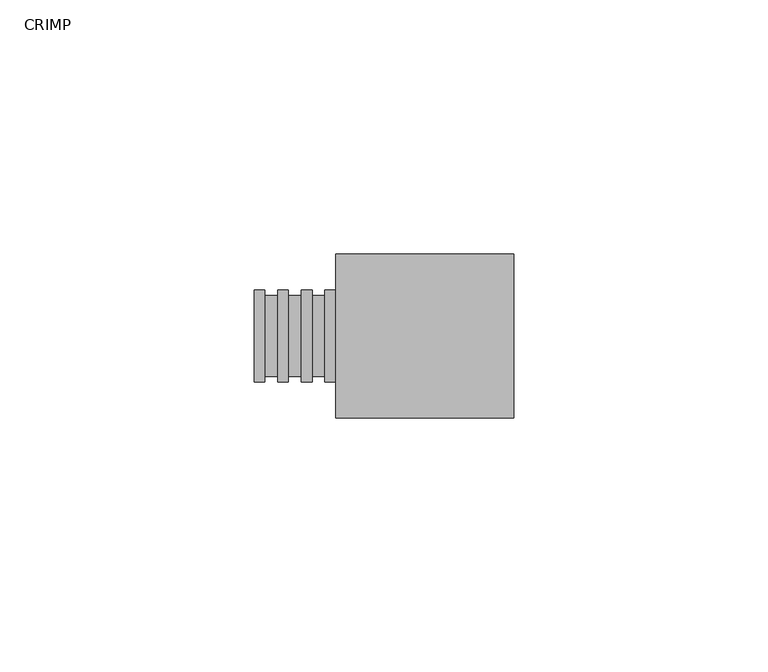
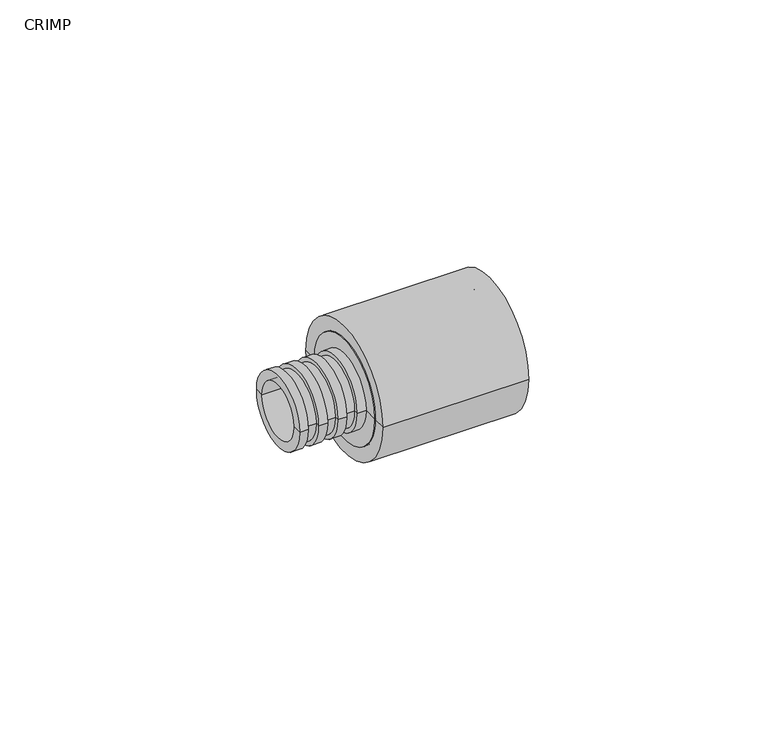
"""IFC4 building model written with IfcOpenShell, lengths in millimetres: valve geometry, Aquatherm - PEX Adapter Crimp : CRIMP."""

import ifcopenshell
import ifcopenshell.guid

model = None  # the IFC model being written
_history = None  # IfcOwnerHistory: only IFC2X3 demands one
_inside = {}  # id of a spatial element -> (the spatial element, [elements in it])
_under = {}  # id of a project, library or spatial element -> (it, [spatial elements below it])
_declared = {}  # id of a project -> (the project, [libraries it declares])
_typed = {}  # id of a type object -> (the type object, [elements of that type])
_made_of = {}  # id of a material, layer set ... -> (it, [elements and type objects made of it])


def new_model(schema):
    """Start an empty IFC model of exactly this schema.

    Asked for "IFC4X3", IfcOpenShell would pick the latest addendum, in which some entities
    have other attributes; the version numbers below select the first issue.
    IFC2X3 requires an IfcOwnerHistory on every rooted entity: one is made here for all.
    """
    global model, _history
    if schema == "IFC4X3":
        model = ifcopenshell.file(schema_version=(4, 3, 0, 0))
    else:
        model = ifcopenshell.file(schema=schema)
    _inside.clear()
    _under.clear()
    _declared.clear()
    _typed.clear()
    _made_of.clear()
    _history = None
    if model.schema == "IFC2X3":
        org = make("IfcOrganization", Name="unknown")
        user = make(
            "IfcPersonAndOrganization",
            ThePerson=make("IfcPerson", FamilyName="unknown"),
            TheOrganization=org,
        )
        app = make(
            "IfcApplication",
            ApplicationDeveloper=org,
            Version="unknown",
            ApplicationFullName="unknown",
            ApplicationIdentifier="unknown",
        )
        _history = make(
            "IfcOwnerHistory",
            OwningUser=user,
            OwningApplication=app,
            ChangeAction="ADDED",
            CreationDate=0,
        )
    return model


def make(cls, **values):
    """One entity of the class cls with the attributes given. An attribute that is None is left unset."""
    return model.create_entity(
        cls, **{name: value for name, value in values.items() if value is not None}
    )


def rooted(cls, **values):
    """An entity with a GlobalId (a new one), such as an element, a storey or a relation."""
    return make(cls, GlobalId=ifcopenshell.guid.new(), OwnerHistory=_history, **values)


def si_unit(unit_type, name, prefix=None):
    """IfcSIUnit, for example si_unit("LENGTHUNIT", "METRE", prefix="MILLI")."""
    return make("IfcSIUnit", UnitType=unit_type, Prefix=prefix, Name=name)


def assignment(units):
    """IfcUnitAssignment: the units of a project."""
    return None if units is None else make("IfcUnitAssignment", Units=units)


def point(xyz):
    """IfcCartesianPoint."""
    return None if xyz is None else make("IfcCartesianPoint", Coordinates=xyz)


def direction(xyz):
    """IfcDirection."""
    return None if xyz is None else make("IfcDirection", DirectionRatios=xyz)


def frame(location, z_axis=None, x_axis=None):
    """IfcAxis2Placement3D, a coordinate frame: its origin and axes. An axis left out is left unset."""
    return make(
        "IfcAxis2Placement3D",
        Location=point(location),
        Axis=direction(z_axis),
        RefDirection=direction(x_axis),
    )


def origin():
    """The frame at (0, 0, 0) with its axes left unset."""
    return frame((0.0, 0.0, 0.0))


def place(relative_to, where):
    """IfcLocalPlacement: puts the frame where relative to a parent placement (None: the world)."""
    return make(
        "IfcLocalPlacement", PlacementRelTo=relative_to, RelativePlacement=where
    )


def context(
    kind, dimensions, precision=None, world=None, true_north=None, identifier=None
):
    """IfcGeometricRepresentationContext, for example the 3D "Model" context."""
    return make(
        "IfcGeometricRepresentationContext",
        ContextIdentifier=identifier,
        ContextType=kind,
        CoordinateSpaceDimension=dimensions,
        Precision=precision,
        WorldCoordinateSystem=world,
        TrueNorth=true_north,
    )


def project(units=None, contexts=None):
    """IfcProject with its units and contexts."""
    return rooted(
        "IfcProject",
        Name="project",
        RepresentationContexts=contexts,
        UnitsInContext=assignment(units),
    )


def spatial(cls, under=None, at=None, **own):
    """A site, building, storey or space (cls), placed at a placement, below another one or the project."""
    s = rooted(cls, ObjectPlacement=at, **own)
    if under is not None:
        _under.setdefault(under.id(), (under, []))[1].append(s)
    return s


def polyline(points):
    """IfcPolyline through the points."""
    return make("IfcPolyline", Points=[point(p) for p in points])


def circle_curve(where, radius):
    """IfcCircle in the frame where."""
    return make("IfcCircle", Position=where, Radius=radius)


def shape(context_of_items, identifier, shape_type, items):
    """IfcShapeRepresentation: the items that make up one representation, for example the "Body"."""
    return make(
        "IfcShapeRepresentation",
        ContextOfItems=context_of_items,
        RepresentationIdentifier=identifier,
        RepresentationType=shape_type,
        Items=items,
    )


def source(mapping_origin, context_of_items, identifier, shape_type, items):
    """IfcRepresentationMap: a shape defined once, which mapped items show again and again."""
    return make(
        "IfcRepresentationMap",
        MappingOrigin=mapping_origin,
        MappedRepresentation=shape(context_of_items, identifier, shape_type, items),
    )


def transform(
    local_origin,
    x_axis=None,
    y_axis=None,
    z_axis=None,
    scale=None,
    scale2=None,
    scale3=None,
    uniform=True,
):
    """IfcCartesianTransformationOperator3D, or its non-uniform kind. x_axis, y_axis, z_axis: its Axis1, 2, 3."""
    if uniform:
        return make(
            "IfcCartesianTransformationOperator3D",
            Axis1=direction(x_axis),
            Axis2=direction(y_axis),
            LocalOrigin=point(local_origin),
            Scale=scale,
            Axis3=direction(z_axis),
        )
    return make(
        "IfcCartesianTransformationOperator3DnonUniform",
        Axis1=direction(x_axis),
        Axis2=direction(y_axis),
        LocalOrigin=point(local_origin),
        Scale=scale,
        Axis3=direction(z_axis),
        Scale2=scale2,
        Scale3=scale3,
    )


def mapped(mapping_source, mapping_target):
    """IfcMappedItem: shows the shape of a source again, moved by a transform."""
    return make(
        "IfcMappedItem", MappingSource=mapping_source, MappingTarget=mapping_target
    )


def made_of(thing, what):
    """Note that an element or type object is made of a material, layer set ...; save() writes the relation."""
    if what is not None:
        _made_of.setdefault(what.id(), (what, []))[1].append(thing)
    return thing


def element(
    cls,
    number,
    at=None,
    inside=None,
    cuts=None,
    type_object=None,
    material=None,
    context=None,
    identifier="Body",
    shape_type=None,
    held_by="IfcProductDefinitionShape",
    body=None,
    shapes=None,
    **own,
):
    """One element of the class cls, such as IfcWall. Its Tag is "e" and its number.

    at: its placement. inside: the storey or other place that contains it. cuts: it is an
    opening in that element (IfcRelVoidsElement). A single representation is given by context,
    identifier, shape_type and body (its items); several are given by shapes. held_by: the class
    of the entity that holds the representations. save() writes the other relations.
    """
    e = rooted(cls, Tag="e%d" % number, ObjectPlacement=at, **own)
    if body is not None:
        shapes = [shape(context, identifier, shape_type, body)]
    if shapes is not None:
        e.Representation = make(held_by, Representations=shapes)
    if inside is not None:
        _inside.setdefault(inside.id(), (inside, []))[1].append(e)
    if cuts is not None:
        rooted(
            "IfcRelVoidsElement", RelatingBuildingElement=cuts, RelatedOpeningElement=e
        )
    if type_object is not None:
        _typed.setdefault(type_object.id(), (type_object, []))[1].append(e)
    return made_of(e, material)


def aggregate(whole, parts):
    """IfcRelAggregates: a whole, such as a stair, and the parts it consists of."""
    return rooted("IfcRelAggregates", RelatingObject=whole, RelatedObjects=parts)


def save(model, path):
    """Write the relations noted so far, then the file.

    IfcRelAggregates (storeys below a building ...), IfcRelContainedInSpatialStructure (elements
    in a storey), IfcRelDefinesByType, IfcRelAssociatesMaterial and IfcRelDeclares: one each for
    every whole, place, type object, material and project.
    """
    for whole, parts in _under.values():
        aggregate(whole, parts)
    for where, things in _inside.values():
        rooted(
            "IfcRelContainedInSpatialStructure",
            RelatedElements=things,
            RelatingStructure=where,
        )
    for kind, things in _typed.values():
        rooted("IfcRelDefinesByType", RelatedObjects=things, RelatingType=kind)
    for what, things in _made_of.values():
        rooted("IfcRelAssociatesMaterial", RelatedObjects=things, RelatingMaterial=what)
    for by, libraries in _declared.values():
        rooted("IfcRelDeclares", RelatingContext=by, RelatedDefinitions=libraries)
    model.write(path)


def plane_surface(at):
    """IfcPlane: the flat surface through the origin of the frame at, square to its z axis."""
    return make("IfcPlane", Position=at)


def cylinder_surface(at, radius):
    """IfcCylindricalSurface: all points at the distance radius from the z axis of the frame at."""
    return make("IfcCylindricalSurface", Position=at, Radius=radius)


def revolved_surface(curve, axis_point, axis_direction):
    """IfcSurfaceOfRevolution: the curve turned about the line through axis_point along axis_direction."""
    return make(
        "IfcSurfaceOfRevolution",
        SweptCurve=make("IfcArbitraryOpenProfileDef", ProfileType="CURVE", Curve=curve),
        AxisPosition=make("IfcAxis1Placement", Location=point(axis_point), Axis=direction(axis_direction)),
    )


def advanced_brep(points, edges, surfaces, faces):
    """IfcAdvancedBrep: a solid bounded by faces that lie on surfaces and meet in shared edges.

    An edge is (start, end): straight between two places in points (the first is 0);
    or (start, end, curve); or (start, end, curve, False) where it runs against its curve.
    A face is (place in surfaces, loops), or (place, loops, False) where it looks against
    its surface's normal. A loop lists edges by number (the first is 1), with a minus sign
    where the edge is run from its end to its start. The first loop is the outer one.
    """
    corners = [point(p) for p in points]
    vertices = [make("IfcVertexPoint", VertexGeometry=c) for c in corners]
    made = []
    for start, end, *more in edges:
        made.append(
            make(
                "IfcEdgeCurve",
                EdgeStart=vertices[start],
                EdgeEnd=vertices[end],
                EdgeGeometry=more[0] if more else make("IfcPolyline", Points=[corners[start], corners[end]]),
                SameSense=more[1] if len(more) > 1 else True,
            )
        )
    hull = []
    for where, loops, *sense in faces:
        bounds = []
        for j, loop in enumerate(loops):
            ring = [make("IfcOrientedEdge", EdgeElement=made[abs(k) - 1], Orientation=k > 0) for k in loop]
            bounds.append(
                make(
                    "IfcFaceOuterBound" if j == 0 else "IfcFaceBound",
                    Bound=make("IfcEdgeLoop", EdgeList=ring),
                    Orientation=True,
                )
            )
        hull.append(make("IfcAdvancedFace", Bounds=bounds, FaceSurface=surfaces[where], SameSense=sense[0] if sense else True))
    return make("IfcAdvancedBrep", Outer=make("IfcClosedShell", CfsFaces=hull))


def crimp_49fb9548(model_context):
    return source(origin(), model_context, "Body", "AdvancedBrep", [
        advanced_brep(
        [(3.175, -6.731, 0.0), (3.175, 6.731, 0.0), (-16.002, 6.731, 0.0), (-16.002, -6.731, 0.0), (3.175, -12.7, 0.0), (3.175, 12.7, 0.0), (-16.002, 9.017, 0.0), (-16.002, -9.017, 0.0), (-2.0955, -9.017, 0.0), (-2.0955, 9.017, 0.0), (0.0, 9.017, 0.0), (0.0, -9.017, 0.0), (-2.0955, -8.001, 0.0), (-2.0955, 8.001, 0.0), (-4.6355, -8.001, 0.0), (-4.6355, 8.001, 0.0), (-4.6355, -9.017, 0.0), (-4.6355, 9.017, 0.0), (-6.731, -9.017, 0.0), (-6.731, 9.017, 0.0), (-6.731, -8.001, 0.0), (-6.731, 8.001, 0.0), (-9.271, -8.001, 0.0), (-9.271, 8.001, 0.0), (-9.271, -9.017, 0.0), (-9.271, 9.017, 0.0), (-11.3665, -9.017, 0.0), (-11.3665, 9.017, 0.0), (-11.3665, -8.001, 0.0), (-11.3665, 8.001, 0.0), (-13.9065, -8.001, 0.0), (-13.9065, 8.001, 0.0), (-13.9065, -9.017, 0.0), (-13.9065, 9.017, 0.0), (0.0, -12.7, 0.0), (0.0, 12.7, 0.0)],
        [
            (0, 1, circle_curve(frame((3.175, 0.0, 0.0), z_axis=(1.0, 0.0, 0.0), x_axis=(0.0, 1.0, 0.0)), 6.731)),
            (1, 2),
            (2, 3, circle_curve(frame((-16.002, 0.0, 0.0), z_axis=(-1.0, 0.0, 0.0), x_axis=(0.0, 1.0, 0.0)), 6.731)),
            (3, 0),
            (1, 0, circle_curve(frame((3.175, 0.0, 0.0), z_axis=(1.0, 0.0, 0.0), x_axis=(0.0, 1.0, 0.0)), 6.731)),
            (3, 2, circle_curve(frame((-16.002, 0.0, 0.0), z_axis=(-1.0, 0.0, 0.0), x_axis=(0.0, 1.0, 0.0)), 6.731)),
            (4, 5, circle_curve(frame((3.175, 0.0, 0.0), z_axis=(1.0, 0.0, 0.0), x_axis=(0.0, 1.0, 0.0)), 12.7)),
            (5, 1),
            (0, 4),
            (5, 4, circle_curve(frame((3.175, 0.0, 0.0), z_axis=(1.0, 0.0, 0.0), x_axis=(0.0, 1.0, 0.0)), 12.7)),
            (2, 6),
            (6, 7, circle_curve(frame((-16.002, 0.0, 0.0), z_axis=(-1.0, 0.0, 0.0), x_axis=(0.0, 1.0, 0.0)), 9.017)),
            (7, 3),
            (7, 6, circle_curve(frame((-16.002, 0.0, 0.0), z_axis=(-1.0, 0.0, 0.0), x_axis=(0.0, 1.0, 0.0)), 9.017)),
            (8, 9, circle_curve(frame((-2.0955, 0.0, 0.0), z_axis=(1.0, 0.0, 0.0), x_axis=(0.0, 1.0, 0.0)), 9.017)),
            (9, 10),
            (10, 11, circle_curve(frame((0.0, 0.0, 0.0), z_axis=(-1.0, 0.0, 0.0), x_axis=(0.0, 1.0, 0.0)), 9.017)),
            (11, 8),
            (9, 8, circle_curve(frame((-2.0955, 0.0, 0.0), z_axis=(1.0, 0.0, 0.0), x_axis=(0.0, 1.0, 0.0)), 9.017)),
            (11, 10, circle_curve(frame((0.0, 0.0, 0.0), z_axis=(-1.0, 0.0, 0.0), x_axis=(0.0, 1.0, 0.0)), 9.017)),
            (12, 13, circle_curve(frame((-2.0955, 0.0, 0.0), z_axis=(1.0, 0.0, 0.0), x_axis=(0.0, 1.0, 0.0)), 8.001)),
            (13, 9),
            (8, 12),
            (13, 12, circle_curve(frame((-2.0955, 0.0, 0.0), z_axis=(1.0, 0.0, 0.0), x_axis=(0.0, 1.0, 0.0)), 8.001)),
            (14, 15, circle_curve(frame((-4.6355, 0.0, 0.0), z_axis=(1.0, 0.0, 0.0), x_axis=(0.0, 1.0, 0.0)), 8.001)),
            (15, 13),
            (12, 14),
            (15, 14, circle_curve(frame((-4.6355, 0.0, 0.0), z_axis=(1.0, 0.0, 0.0), x_axis=(0.0, 1.0, 0.0)), 8.001)),
            (16, 17, circle_curve(frame((-4.6355, 0.0, 0.0), z_axis=(1.0, 0.0, 0.0), x_axis=(0.0, 1.0, 0.0)), 9.017)),
            (17, 15),
            (14, 16),
            (17, 16, circle_curve(frame((-4.6355, 0.0, 0.0), z_axis=(1.0, 0.0, 0.0), x_axis=(0.0, 1.0, 0.0)), 9.017)),
            (18, 19, circle_curve(frame((-6.731, 0.0, 0.0), z_axis=(1.0, 0.0, 0.0), x_axis=(0.0, 1.0, 0.0)), 9.017)),
            (19, 17),
            (16, 18),
            (19, 18, circle_curve(frame((-6.731, 0.0, 0.0), z_axis=(1.0, 0.0, 0.0), x_axis=(0.0, 1.0, 0.0)), 9.017)),
            (20, 21, circle_curve(frame((-6.731, 0.0, 0.0), z_axis=(1.0, 0.0, 0.0), x_axis=(0.0, 1.0, 0.0)), 8.001)),
            (21, 19),
            (18, 20),
            (21, 20, circle_curve(frame((-6.731, 0.0, 0.0), z_axis=(1.0, 0.0, 0.0), x_axis=(0.0, 1.0, 0.0)), 8.001)),
            (22, 23, circle_curve(frame((-9.271, 0.0, 0.0), z_axis=(1.0, 0.0, 0.0), x_axis=(0.0, 1.0, 0.0)), 8.001)),
            (23, 21),
            (20, 22),
            (23, 22, circle_curve(frame((-9.271, 0.0, 0.0), z_axis=(1.0, 0.0, 0.0), x_axis=(0.0, 1.0, 0.0)), 8.001)),
            (24, 25, circle_curve(frame((-9.271, 0.0, 0.0), z_axis=(1.0, 0.0, 0.0), x_axis=(0.0, 1.0, 0.0)), 9.017)),
            (25, 23),
            (22, 24),
            (25, 24, circle_curve(frame((-9.271, 0.0, 0.0), z_axis=(1.0, 0.0, 0.0), x_axis=(0.0, 1.0, 0.0)), 9.017)),
            (26, 27, circle_curve(frame((-11.3665, 0.0, 0.0), z_axis=(1.0, 0.0, 0.0), x_axis=(0.0, 1.0, 0.0)), 9.017)),
            (27, 25),
            (24, 26),
            (27, 26, circle_curve(frame((-11.3665, 0.0, 0.0), z_axis=(1.0, 0.0, 0.0), x_axis=(0.0, 1.0, 0.0)), 9.017)),
            (28, 29, circle_curve(frame((-11.3665, 0.0, 0.0), z_axis=(1.0, 0.0, 0.0), x_axis=(0.0, 1.0, 0.0)), 8.001)),
            (29, 27),
            (26, 28),
            (29, 28, circle_curve(frame((-11.3665, 0.0, 0.0), z_axis=(1.0, 0.0, 0.0), x_axis=(0.0, 1.0, 0.0)), 8.001)),
            (30, 31, circle_curve(frame((-13.9065, 0.0, 0.0), z_axis=(1.0, 0.0, 0.0), x_axis=(0.0, 1.0, 0.0)), 8.001)),
            (31, 29),
            (28, 30),
            (31, 30, circle_curve(frame((-13.9065, 0.0, 0.0), z_axis=(1.0, 0.0, 0.0), x_axis=(0.0, 1.0, 0.0)), 8.001)),
            (32, 33, circle_curve(frame((-13.9065, 0.0, 0.0), z_axis=(1.0, 0.0, 0.0), x_axis=(0.0, 1.0, 0.0)), 9.017)),
            (33, 31),
            (30, 32),
            (33, 32, circle_curve(frame((-13.9065, 0.0, 0.0), z_axis=(1.0, 0.0, 0.0), x_axis=(0.0, 1.0, 0.0)), 9.017)),
            (6, 33),
            (32, 7),
            (34, 35, circle_curve(frame((0.0, 0.0, 0.0), z_axis=(1.0, 0.0, 0.0), x_axis=(0.0, 1.0, 0.0)), 12.7)),
            (35, 5),
            (4, 34),
            (35, 34, circle_curve(frame((0.0, 0.0, 0.0), z_axis=(1.0, 0.0, 0.0), x_axis=(0.0, 1.0, 0.0)), 12.7)),
            (10, 35),
            (34, 11),
        ],
        [
            revolved_surface(polyline([(-16.002, 6.731, 0.0), (3.1750000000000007, 6.731, 0.0)]), (-27.559, 0.0, 0.0), (-1.0, 0.0, 0.0)),
            plane_surface(frame((3.175, 0.0, 0.0), z_axis=(1.0, 0.0, 0.0), x_axis=(0.0, 1.0, 0.0))),
            plane_surface(frame((-16.002, 0.0, 0.0), z_axis=(-1.0, 0.0, 0.0), x_axis=(0.0, 1.0, 0.0))),
            cylinder_surface(frame((-27.559, 0.0, 0.0), z_axis=(-1.0, 0.0, 0.0), x_axis=(0.0, 1.0, 0.0)), 9.017),
            plane_surface(frame((-2.0955, 0.0, 0.0), z_axis=(-1.0, 0.0, 0.0), x_axis=(0.0, 1.0, 0.0))),
            cylinder_surface(frame((-27.559, 0.0, 0.0), z_axis=(-1.0, 0.0, 0.0), x_axis=(0.0, 1.0, 0.0)), 8.001),
            plane_surface(frame((-4.6355, 0.0, 0.0), z_axis=(1.0, 0.0, 0.0), x_axis=(0.0, 1.0, 0.0))),
            plane_surface(frame((-6.731, 0.0, 0.0), z_axis=(-1.0, 0.0, 0.0), x_axis=(0.0, 1.0, 0.0))),
            plane_surface(frame((-9.271, 0.0, 0.0), z_axis=(1.0, 0.0, 0.0), x_axis=(0.0, 1.0, 0.0))),
            plane_surface(frame((-11.3665, 0.0, 0.0), z_axis=(-1.0, 0.0, 0.0), x_axis=(0.0, 1.0, 0.0))),
            plane_surface(frame((-13.9065, 0.0, 0.0), z_axis=(1.0, 0.0, 0.0), x_axis=(0.0, 1.0, 0.0))),
            cylinder_surface(frame((-27.559, 0.0, 0.0), z_axis=(-1.0, 0.0, 0.0), x_axis=(0.0, 1.0, 0.0)), 12.7),
            plane_surface(frame((0.0, 0.0, 0.0), z_axis=(-1.0, 0.0, 0.0), x_axis=(0.0, 1.0, 0.0))),
        ],
        [
            (0, [[1, 2, 3, 4]]),
            (0, [[5, -4, 6, -2]]),
            (1, [[7, 8, -1, 9]]),
            (1, [[10, -9, -5, -8]]),
            (2, [[-3, 11, 12, 13]]),
            (2, [[-6, -13, 14, -11]]),
            (3, [[15, 16, 17, 18]]),
            (3, [[19, -18, 20, -16]]),
            (4, [[21, 22, -15, 23]]),
            (4, [[24, -23, -19, -22]]),
            (5, [[25, 26, -21, 27]]),
            (5, [[28, -27, -24, -26]]),
            (6, [[29, 30, -25, 31]]),
            (6, [[32, -31, -28, -30]]),
            (3, [[33, 34, -29, 35]]),
            (3, [[36, -35, -32, -34]]),
            (7, [[37, 38, -33, 39]]),
            (7, [[40, -39, -36, -38]]),
            (5, [[41, 42, -37, 43]]),
            (5, [[44, -43, -40, -42]]),
            (8, [[45, 46, -41, 47]]),
            (8, [[48, -47, -44, -46]]),
            (3, [[49, 50, -45, 51]]),
            (3, [[52, -51, -48, -50]]),
            (9, [[53, 54, -49, 55]]),
            (9, [[56, -55, -52, -54]]),
            (5, [[57, 58, -53, 59]]),
            (5, [[60, -59, -56, -58]]),
            (10, [[61, 62, -57, 63]]),
            (10, [[64, -63, -60, -62]]),
            (3, [[-12, 65, -61, 66]]),
            (3, [[-14, -66, -64, -65]]),
            (11, [[67, 68, -7, 69]]),
            (11, [[70, -69, -10, -68]]),
            (12, [[-17, 71, -67, 72]]),
            (12, [[-20, -72, -70, -71]]),
        ],
    ),
        advanced_brep(
        [(0.0, -16.129, 0.0), (0.0, 16.129, 0.0), (35.052, 16.129, 0.0), (35.052, -16.129, 0.0), (0.0, -12.7, 0.0), (0.0, 12.7, 0.0), (3.175, -12.7, 0.0), (3.175, 12.7, 0.0), (3.175, -6.731, 0.0), (3.175, 6.731, 0.0), (35.052, -11.176, 0.0), (35.052, 11.176, 0.0), (19.05, 11.176, 0.0), (19.05, -11.176, 0.0), (19.05, -6.731, 0.0), (19.05, 6.731, 0.0)],
        [
            (0, 1, circle_curve(frame((0.0, 0.0, 0.0), z_axis=(1.0, 0.0, 0.0), x_axis=(0.0, 1.0, 0.0)), 16.129)),
            (1, 2),
            (2, 3, circle_curve(frame((35.052, 0.0, 0.0), z_axis=(-1.0, 0.0, 0.0), x_axis=(0.0, 1.0, 0.0)), 16.129)),
            (3, 0),
            (1, 0, circle_curve(frame((0.0, 0.0, 0.0), z_axis=(1.0, 0.0, 0.0), x_axis=(0.0, 1.0, 0.0)), 16.129)),
            (3, 2, circle_curve(frame((35.052, 0.0, 0.0), z_axis=(-1.0, 0.0, 0.0), x_axis=(0.0, 1.0, 0.0)), 16.129)),
            (4, 5, circle_curve(frame((0.0, 0.0, 0.0), z_axis=(1.0, 0.0, 0.0), x_axis=(0.0, 1.0, 0.0)), 12.7)),
            (5, 1),
            (0, 4),
            (5, 4, circle_curve(frame((0.0, 0.0, 0.0), z_axis=(1.0, 0.0, 0.0), x_axis=(0.0, 1.0, 0.0)), 12.7)),
            (6, 7, circle_curve(frame((3.175, 0.0, 0.0), z_axis=(1.0, 0.0, 0.0), x_axis=(0.0, 1.0, 0.0)), 12.7)),
            (7, 5),
            (4, 6),
            (7, 6, circle_curve(frame((3.175, 0.0, 0.0), z_axis=(1.0, 0.0, 0.0), x_axis=(0.0, 1.0, 0.0)), 12.7)),
            (8, 9, circle_curve(frame((3.175, 0.0, 0.0), z_axis=(1.0, 0.0, 0.0), x_axis=(0.0, 1.0, 0.0)), 6.731)),
            (9, 7),
            (6, 8),
            (9, 8, circle_curve(frame((3.175, 0.0, 0.0), z_axis=(1.0, 0.0, 0.0), x_axis=(0.0, 1.0, 0.0)), 6.731)),
            (10, 11, circle_curve(frame((35.052, 0.0, 0.0), z_axis=(1.0, 0.0, 0.0), x_axis=(0.0, 1.0, 0.0)), 11.176)),
            (11, 12),
            (12, 13, circle_curve(frame((19.05, 0.0, 0.0), z_axis=(-1.0, 0.0, 0.0), x_axis=(0.0, 1.0, 0.0)), 11.176)),
            (13, 10),
            (11, 10, circle_curve(frame((35.052, 0.0, 0.0), z_axis=(1.0, 0.0, 0.0), x_axis=(0.0, 1.0, 0.0)), 11.176)),
            (13, 12, circle_curve(frame((19.05, 0.0, 0.0), z_axis=(-1.0, 0.0, 0.0), x_axis=(0.0, 1.0, 0.0)), 11.176)),
            (2, 11),
            (10, 3),
            (14, 15, circle_curve(frame((19.05, 0.0, 0.0), z_axis=(1.0, 0.0, 0.0), x_axis=(0.0, 1.0, 0.0)), 6.731)),
            (15, 9),
            (8, 14),
            (15, 14, circle_curve(frame((19.05, 0.0, 0.0), z_axis=(1.0, 0.0, 0.0), x_axis=(0.0, 1.0, 0.0)), 6.731)),
            (12, 15),
            (14, 13),
        ],
        [
            cylinder_surface(frame((-41.402, 0.0, 0.0), z_axis=(-1.0, 0.0, 0.0), x_axis=(0.0, 1.0, 0.0)), 16.129),
            plane_surface(frame((0.0, 0.0, 0.0), z_axis=(-1.0, 0.0, 0.0), x_axis=(0.0, 1.0, 0.0))),
            revolved_surface(polyline([(0.0, 12.7, 0.0), (3.174999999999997, 12.7, 0.0)]), (-41.402, 0.0, 0.0), (-1.0, 0.0, 0.0)),
            plane_surface(frame((3.175, 0.0, 0.0), z_axis=(-1.0, 0.0, 0.0), x_axis=(0.0, 1.0, 0.0))),
            revolved_surface(polyline([(19.049999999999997, 11.176, 0.0), (35.05200000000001, 11.176, 0.0)]), (-41.402, 0.0, 0.0), (-1.0, 0.0, 0.0)),
            plane_surface(frame((35.052, 0.0, 0.0), z_axis=(1.0, 0.0, 0.0), x_axis=(0.0, 1.0, 0.0))),
            revolved_surface(polyline([(3.174999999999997, 6.731, 0.0), (19.049999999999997, 6.731, 0.0)]), (-41.402, 0.0, 0.0), (-1.0, 0.0, 0.0)),
            plane_surface(frame((19.05, 0.0, 0.0), z_axis=(1.0, 0.0, 0.0), x_axis=(0.0, 1.0, 0.0))),
        ],
        [
            (0, [[1, 2, 3, 4]]),
            (0, [[5, -4, 6, -2]]),
            (1, [[7, 8, -1, 9]]),
            (1, [[10, -9, -5, -8]]),
            (2, [[11, 12, -7, 13]]),
            (2, [[14, -13, -10, -12]]),
            (3, [[15, 16, -11, 17]]),
            (3, [[18, -17, -14, -16]]),
            (4, [[19, 20, 21, 22]]),
            (4, [[23, -22, 24, -20]]),
            (5, [[-3, 25, -19, 26]]),
            (5, [[-6, -26, -23, -25]]),
            (6, [[27, 28, -15, 29]]),
            (6, [[30, -29, -18, -28]]),
            (7, [[-21, 31, -27, 32]]),
            (7, [[-24, -32, -30, -31]]),
        ],
    ),
    ])


if __name__ == "__main__":
    model = new_model("IFC4")
    model_context = context("Model", 3, world=origin())
    ifc_project = project(units=[si_unit("LENGTHUNIT", "METRE", prefix="MILLI")], contexts=[model_context])
    site = spatial("IfcSite", under=ifc_project)
    building = spatial("IfcBuilding", under=site)
    placement = place(None, origin())
    crimp_shape = crimp_49fb9548(model_context)
    element("IfcValve", 1, ObjectType="Aquatherm - PEX Adapter Crimp : CRIMP", at=placement, inside=building, context=model_context, shape_type="MappedRepresentation", body=[
        mapped(crimp_shape, transform((0.0, 0.0, 0.0), x_axis=(1.0, 0.0, 0.0), y_axis=(0.0, 1.0, 0.0), z_axis=(0.0, 0.0, 1.0))),
    ])
    save(model, "model.ifc")
